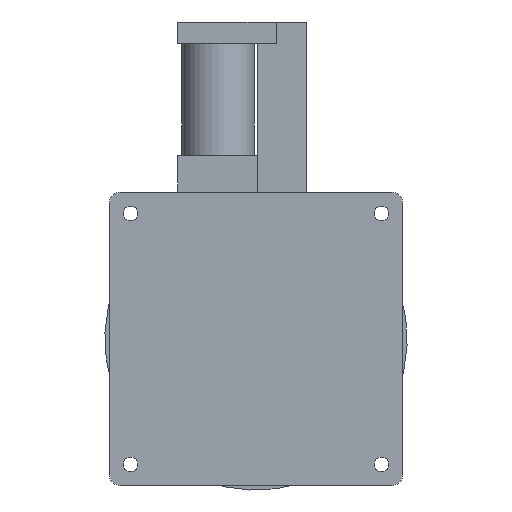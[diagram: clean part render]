
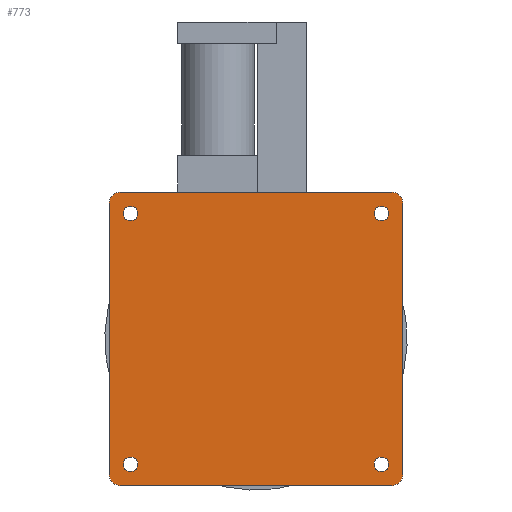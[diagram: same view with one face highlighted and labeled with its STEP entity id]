
A CAD part, front view. The second image highlights one B-rep face of the part: STEP entity #773.
In plain terms, the highlighted planar face has unit normal (0, -1, 0).
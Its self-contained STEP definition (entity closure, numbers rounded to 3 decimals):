
#7 = CARTESIAN_POINT ( 'NONE',  ( 112., 0., 112. ) ) ;
#12 = DIRECTION ( 'NONE',  ( 0., 1., 0. ) ) ;
#14 = DIRECTION ( 'NONE',  ( 0., 0., 1. ) ) ;
#16 = CIRCLE ( 'NONE', #17, 6.5 ) ;
#17 = AXIS2_PLACEMENT_3D ( 'NONE', #7, #12, #14 ) ;
#47 = CARTESIAN_POINT ( 'NONE',  ( -112., 0., 118.5 ) ) ;
#65 = CARTESIAN_POINT ( 'NONE',  ( -112., 0., 105.5 ) ) ;
#69 = DIRECTION ( 'NONE',  ( 0., 0., 1. ) ) ;
#70 = DIRECTION ( 'NONE',  ( 0., 1., 0. ) ) ;
#71 = CARTESIAN_POINT ( 'NONE',  ( -112., 0., 112. ) ) ;
#108 = CIRCLE ( 'NONE', #109, 6.5 ) ;
#109 = AXIS2_PLACEMENT_3D ( 'NONE', #71, #70, #69 ) ;
#114 = CARTESIAN_POINT ( 'NONE',  ( 112., 0., 118.5 ) ) ;
#440 = CARTESIAN_POINT ( 'NONE',  ( 112., 0., 105.5 ) ) ;
#469 = VERTEX_POINT ( 'NONE', #1475 ) ;
#477 = VERTEX_POINT ( 'NONE', #1487 ) ;
#486 = EDGE_CURVE ( 'NONE', #477, #469, #1591, .T. ) ;
#718 = ORIENTED_EDGE ( 'NONE', *, *, #772, .T. ) ;
#734 = EDGE_LOOP ( 'NONE', ( #770, #769 ) ) ;
#742 = EDGE_CURVE ( 'NONE', #744, #953, #1970, .T. ) ;
#744 = VERTEX_POINT ( 'NONE', #1971 ) ;
#745 = EDGE_CURVE ( 'NONE', #930, #937, #1957, .T. ) ;
#764 = EDGE_LOOP ( 'NONE', ( #766, #765 ) ) ;
#765 = ORIENTED_EDGE ( 'NONE', *, *, #1410, .T. ) ;
#766 = ORIENTED_EDGE ( 'NONE', *, *, #774, .T. ) ;
#767 = EDGE_LOOP ( 'NONE', ( #768, #795 ) ) ;
#768 = ORIENTED_EDGE ( 'NONE', *, *, #799, .T. ) ;
#769 = ORIENTED_EDGE ( 'NONE', *, *, #486, .T. ) ;
#770 = ORIENTED_EDGE ( 'NONE', *, *, #796, .T. ) ;
#771 = ORIENTED_EDGE ( 'NONE', *, *, #1367, .T. ) ;
#772 = EDGE_CURVE ( 'NONE', #1428, #1363, #2007, .T. ) ;
#773 = ADVANCED_FACE ( 'NONE', ( #2001, #2043, #2042, #2008, #2003 ), #2002, .T. ) ;
#774 = EDGE_CURVE ( 'NONE', #1398, #1405, #2093, .T. ) ;
#795 = ORIENTED_EDGE ( 'NONE', *, *, #1030, .T. ) ;
#796 = EDGE_CURVE ( 'NONE', #469, #477, #2128, .T. ) ;
#797 = EDGE_LOOP ( 'NONE', ( #798, #805, #802, #808, #806, #813, #810, #817 ) ) ;
#798 = ORIENTED_EDGE ( 'NONE', *, *, #1010, .F. ) ;
#799 = EDGE_CURVE ( 'NONE', #1029, #1032, #2124, .T. ) ;
#802 = ORIENTED_EDGE ( 'NONE', *, *, #745, .F. ) ;
#803 = EDGE_CURVE ( 'NONE', #930, #916, #2109, .T. ) ;
#804 = EDGE_CURVE ( 'NONE', #920, #953, #2112, .T. ) ;
#805 = ORIENTED_EDGE ( 'NONE', *, *, #807, .T. ) ;
#806 = ORIENTED_EDGE ( 'NONE', *, *, #922, .F. ) ;
#807 = EDGE_CURVE ( 'NONE', #986, #937, #2111, .T. ) ;
#808 = ORIENTED_EDGE ( 'NONE', *, *, #803, .T. ) ;
#810 = ORIENTED_EDGE ( 'NONE', *, *, #742, .F. ) ;
#811 = EDGE_CURVE ( 'NONE', #744, #978, #2121, .T. ) ;
#813 = ORIENTED_EDGE ( 'NONE', *, *, #804, .T. ) ;
#817 = ORIENTED_EDGE ( 'NONE', *, *, #811, .T. ) ;
#830 = EDGE_LOOP ( 'NONE', ( #718, #771 ) ) ;
#916 = VERTEX_POINT ( 'NONE', #2263 ) ;
#920 = VERTEX_POINT ( 'NONE', #2287 ) ;
#922 = EDGE_CURVE ( 'NONE', #920, #916, #2258, .T. ) ;
#930 = VERTEX_POINT ( 'NONE', #2296 ) ;
#937 = VERTEX_POINT ( 'NONE', #2279 ) ;
#953 = VERTEX_POINT ( 'NONE', #2319 ) ;
#978 = VERTEX_POINT ( 'NONE', #2507 ) ;
#986 = VERTEX_POINT ( 'NONE', #2492 ) ;
#1010 = EDGE_CURVE ( 'NONE', #986, #978, #2525, .T. ) ;
#1029 = VERTEX_POINT ( 'NONE', #2571 ) ;
#1030 = EDGE_CURVE ( 'NONE', #1032, #1029, #2564, .T. ) ;
#1032 = VERTEX_POINT ( 'NONE', #2454 ) ;
#1363 = VERTEX_POINT ( 'NONE', #440 ) ;
#1367 = EDGE_CURVE ( 'NONE', #1363, #1428, #16, .T. ) ;
#1398 = VERTEX_POINT ( 'NONE', #47 ) ;
#1405 = VERTEX_POINT ( 'NONE', #65 ) ;
#1410 = EDGE_CURVE ( 'NONE', #1405, #1398, #108, .T. ) ;
#1428 = VERTEX_POINT ( 'NONE', #114 ) ;
#1475 = CARTESIAN_POINT ( 'NONE',  ( 112., 0., -105.5 ) ) ;
#1487 = CARTESIAN_POINT ( 'NONE',  ( 112., 0., -118.5 ) ) ;
#1518 = CARTESIAN_POINT ( 'NONE',  ( 112., 0., -112. ) ) ;
#1560 = DIRECTION ( 'NONE',  ( 0., 1., 0. ) ) ;
#1591 = CIRCLE ( 'NONE', #1612, 6.5 ) ;
#1611 = DIRECTION ( 'NONE',  ( 0., 0., 1. ) ) ;
#1612 = AXIS2_PLACEMENT_3D ( 'NONE', #1518, #1560, #1611 ) ;
#1954 = DIRECTION ( 'NONE',  ( 0., 0., 1. ) ) ;
#1955 = VECTOR ( 'NONE', #1954, 1000. ) ;
#1956 = CARTESIAN_POINT ( 'NONE',  ( -131., 0., 131. ) ) ;
#1957 = LINE ( 'NONE', #1956, #1955 ) ;
#1965 = DIRECTION ( 'NONE',  ( 0., 0., -1. ) ) ;
#1966 = VECTOR ( 'NONE', #1965, 1000. ) ;
#1969 = CARTESIAN_POINT ( 'NONE',  ( 131., 0., 131. ) ) ;
#1970 = LINE ( 'NONE', #1969, #1966 ) ;
#1971 = CARTESIAN_POINT ( 'NONE',  ( 131., 0., 121. ) ) ;
#2001 = FACE_BOUND ( 'NONE', #830, .T. ) ;
#2002 = PLANE ( 'NONE',  #2105 ) ;
#2003 = FACE_OUTER_BOUND ( 'NONE', #797, .T. ) ;
#2004 = DIRECTION ( 'NONE',  ( 0., 0., 1. ) ) ;
#2005 = DIRECTION ( 'NONE',  ( 0., 1., 0. ) ) ;
#2006 = AXIS2_PLACEMENT_3D ( 'NONE', #2041, #2005, #2004 ) ;
#2007 = CIRCLE ( 'NONE', #2006, 6.5 ) ;
#2008 = FACE_BOUND ( 'NONE', #767, .T. ) ;
#2041 = CARTESIAN_POINT ( 'NONE',  ( 112., 0., 112. ) ) ;
#2042 = FACE_BOUND ( 'NONE', #734, .T. ) ;
#2043 = FACE_BOUND ( 'NONE', #764, .T. ) ;
#2086 = DIRECTION ( 'NONE',  ( 0., 0., 1. ) ) ;
#2087 = DIRECTION ( 'NONE',  ( 0., 1., 0. ) ) ;
#2088 = CARTESIAN_POINT ( 'NONE',  ( -112., 0., 112. ) ) ;
#2089 = AXIS2_PLACEMENT_3D ( 'NONE', #2088, #2087, #2086 ) ;
#2091 = DIRECTION ( 'NONE',  ( 0., 0., -1. ) ) ;
#2092 = DIRECTION ( 'NONE',  ( 0., -1., 0. ) ) ;
#2093 = CIRCLE ( 'NONE', #2089, 6.5 ) ;
#2105 = AXIS2_PLACEMENT_3D ( 'NONE', #2107, #2092, #2091 ) ;
#2107 = CARTESIAN_POINT ( 'NONE',  ( 131., 0., -131. ) ) ;
#2108 = AXIS2_PLACEMENT_3D ( 'NONE', #2199, #2198, #2197 ) ;
#2109 = CIRCLE ( 'NONE', #2108, 10. ) ;
#2110 = CARTESIAN_POINT ( 'NONE',  ( -121., 0., 121. ) ) ;
#2111 = CIRCLE ( 'NONE', #2190, 10. ) ;
#2112 = CIRCLE ( 'NONE', #2195, 10. ) ;
#2113 = DIRECTION ( 'NONE',  ( 0., 0., 1. ) ) ;
#2114 = DIRECTION ( 'NONE',  ( 0., 1., 0. ) ) ;
#2115 = CARTESIAN_POINT ( 'NONE',  ( -112., 0., -112. ) ) ;
#2116 = CARTESIAN_POINT ( 'NONE',  ( 121., 0., -121. ) ) ;
#2118 = DIRECTION ( 'NONE',  ( 0., 0., 1. ) ) ;
#2119 = DIRECTION ( 'NONE',  ( 0., 1., 0. ) ) ;
#2120 = AXIS2_PLACEMENT_3D ( 'NONE', #2127, #2119, #2118 ) ;
#2121 = CIRCLE ( 'NONE', #2184, 10. ) ;
#2123 = AXIS2_PLACEMENT_3D ( 'NONE', #2115, #2114, #2113 ) ;
#2124 = CIRCLE ( 'NONE', #2123, 6.5 ) ;
#2127 = CARTESIAN_POINT ( 'NONE',  ( 112., 0., -112. ) ) ;
#2128 = CIRCLE ( 'NONE', #2120, 6.5 ) ;
#2174 = DIRECTION ( 'NONE',  ( 0., 0., -1. ) ) ;
#2175 = DIRECTION ( 'NONE',  ( 0., -1., 0. ) ) ;
#2182 = CARTESIAN_POINT ( 'NONE',  ( 121., 0., 121. ) ) ;
#2184 = AXIS2_PLACEMENT_3D ( 'NONE', #2182, #2175, #2174 ) ;
#2188 = DIRECTION ( 'NONE',  ( 0., 0., -1. ) ) ;
#2189 = DIRECTION ( 'NONE',  ( 0., -1., 0. ) ) ;
#2190 = AXIS2_PLACEMENT_3D ( 'NONE', #2110, #2189, #2188 ) ;
#2193 = DIRECTION ( 'NONE',  ( 0., 0., -1. ) ) ;
#2194 = DIRECTION ( 'NONE',  ( 0., -1., 0. ) ) ;
#2195 = AXIS2_PLACEMENT_3D ( 'NONE', #2116, #2194, #2193 ) ;
#2197 = DIRECTION ( 'NONE',  ( 0., 0., -1. ) ) ;
#2198 = DIRECTION ( 'NONE',  ( 0., -1., 0. ) ) ;
#2199 = CARTESIAN_POINT ( 'NONE',  ( -121., 0., -121. ) ) ;
#2258 = LINE ( 'NONE', #2315, #2314 ) ;
#2263 = CARTESIAN_POINT ( 'NONE',  ( -121., 0., -131. ) ) ;
#2279 = CARTESIAN_POINT ( 'NONE',  ( -131., 0., 121. ) ) ;
#2287 = CARTESIAN_POINT ( 'NONE',  ( 121., 0., -131. ) ) ;
#2296 = CARTESIAN_POINT ( 'NONE',  ( -131., 0., -121. ) ) ;
#2313 = DIRECTION ( 'NONE',  ( -1., 0., 0. ) ) ;
#2314 = VECTOR ( 'NONE', #2313, 1000. ) ;
#2315 = CARTESIAN_POINT ( 'NONE',  ( -131., 0., -131. ) ) ;
#2319 = CARTESIAN_POINT ( 'NONE',  ( 131., 0., -121. ) ) ;
#2454 = CARTESIAN_POINT ( 'NONE',  ( -112., 0., -118.5 ) ) ;
#2492 = CARTESIAN_POINT ( 'NONE',  ( -121., 0., 131. ) ) ;
#2507 = CARTESIAN_POINT ( 'NONE',  ( 121., 0., 131. ) ) ;
#2522 = DIRECTION ( 'NONE',  ( 1., 0., 0. ) ) ;
#2523 = VECTOR ( 'NONE', #2522, 1000. ) ;
#2524 = CARTESIAN_POINT ( 'NONE',  ( -131., 0., 131. ) ) ;
#2525 = LINE ( 'NONE', #2524, #2523 ) ;
#2560 = DIRECTION ( 'NONE',  ( 0., 0., 1. ) ) ;
#2561 = DIRECTION ( 'NONE',  ( 0., 1., 0. ) ) ;
#2562 = CARTESIAN_POINT ( 'NONE',  ( -112., 0., -112. ) ) ;
#2563 = AXIS2_PLACEMENT_3D ( 'NONE', #2562, #2561, #2560 ) ;
#2564 = CIRCLE ( 'NONE', #2563, 6.5 ) ;
#2571 = CARTESIAN_POINT ( 'NONE',  ( -112., 0., -105.5 ) ) ;
